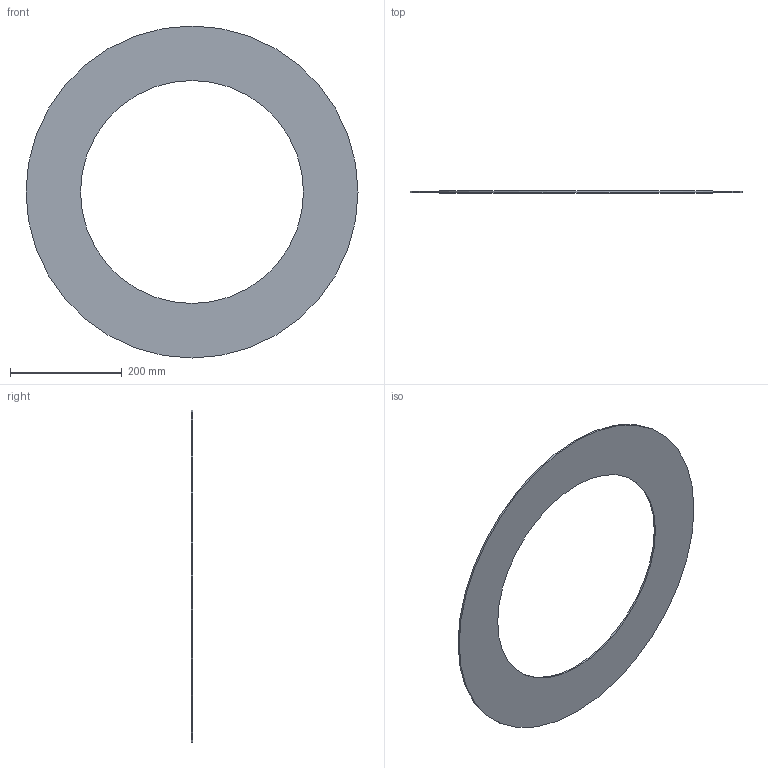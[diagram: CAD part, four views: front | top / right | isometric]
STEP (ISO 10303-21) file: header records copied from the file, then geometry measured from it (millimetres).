
FILE_DESCRIPTION(/* description */ ('Unknown'),/* implementation_level */ '2;1');
FILE_NAME(/* name */ 'GUA.450B',/* time_stamp */ '2021-04-01T14:18:49+02:00',/* author */ ('Unknown'),/* organization */ ('Unknown'),/* preprocessor_version */ 'ST-DEVELOPER v16.7',/* originating_system */ 'Solid Edge',/* authorisation */ 'Unknown');
FILE_SCHEMA (('AUTOMOTIVE_DESIGN {1 0 10303 214 3 1 1}'));
Length unit declared in the file: millimetre
Products named in the file (1): GUA.450B
Bounding box: 594 x 3 x 594 mm (x, y, z)
Volume: 456241.7 mm3; surface area: 313520 mm2
Topology: 1 solids, 1 shells, 4 faces, 6 edges, 4 vertices
Faces by surface type: cylinder 2, plane 2
Full cylindrical faces by diameter (mm): 399 x1, 594 x1
Entity records: 118 total; most frequent: DIRECTION 18, CARTESIAN_POINT 13, AXIS2_PLACEMENT_3D 9, ORIENTED_EDGE 8, EDGE_LOOP 8, FACE_BOUND 8, EDGE_CURVE 4, VERTEX_POINT 4
